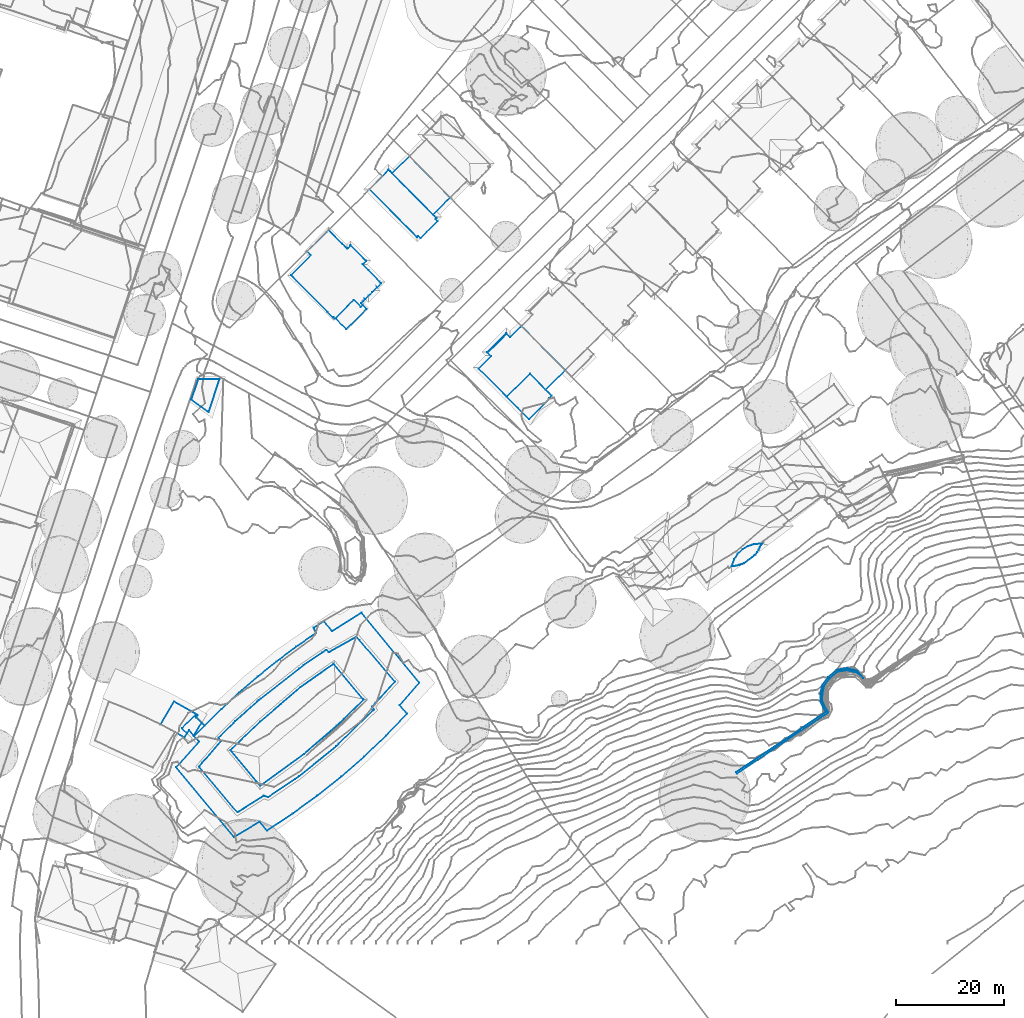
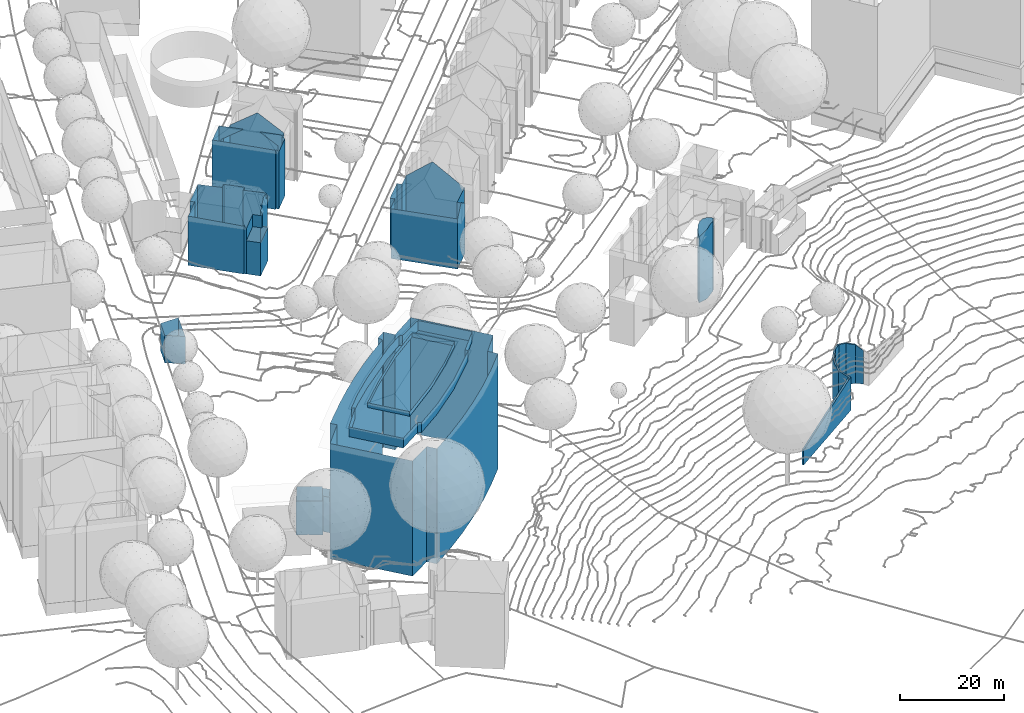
# Not in any storey, part 24 of 477: 7 walls.
"""IFC4 building model written with IfcOpenShell, lengths in metres."""

from ifc_helpers import new_model, si_unit, frame, origin_with_axes, place, context, subcontext, project, spatial, polygons, element, save


model = new_model("IFC4")

# Units and contexts
model_context = context("Model", 3, precision=1e-05, world=origin_with_axes())
body_context = subcontext(model_context, "Body", "Model", "MODEL_VIEW")
ifc_project = project(units=[si_unit("AREAUNIT", "SQUARE_METRE"), si_unit("LENGTHUNIT", "METRE")], contexts=[model_context])

# Sites, building
site_1_placement = place(None, origin_with_axes())
site_1 = spatial("IfcSite", under=ifc_project, at=site_1_placement, Name="Topoexport Site")
site_2_placement = place(site_1_placement, origin_with_axes())
site_2 = spatial("IfcSite", under=site_1, at=site_2_placement, Name="TPX_BUILDINGS")
building_1_placement = place(site_2_placement, frame((211.8297320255, 101.9383160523, 526.7541), z_axis=(0.0, 0.0, 1.0), x_axis=(1.0, 0.0, 0.0)))
building_1 = spatial("IfcBuilding", under=site_2, at=building_1_placement, Name="Building 18", CompositionType="ELEMENT")

# Wall
wall_1_placement = place(None, frame((211.8297320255, 101.9383160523, 526.7541), z_axis=(0.0, 0.0, 1.0), x_axis=(1.0, 0.0, 0.0)))
element("IfcWall", 1, at=wall_1_placement, inside=building_1, Name="Wall 5", context=body_context, shape_type="Tessellation", body=[
    polygons([(-34.2349999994, -56.6416000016, -17.0633), (-34.2729999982, -58.0879000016, -8.6262), (-34.2349999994, -56.6416000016, -7.9062), (-34.6169999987, -58.1572000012, -17.0633), (-34.5759999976, -56.5976999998, -17.0633), (-34.6169999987, -58.1572000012, -8.6262), (-34.0889999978, -59.3066999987, -17.0634), (-34.0889999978, -59.3066999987, -8.9141), (-34.2729999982, -58.0879000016, -17.0633), (-33.7829999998, -59.1513999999, -8.9141), (-33.6050000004, -60.182599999, -17.0634), (-33.6050000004, -60.182599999, -9.2021), (-33.7829999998, -59.1513999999, -17.0634), (-33.1519999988, -60.2930000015, -9.2021), (-50.118999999, -71.6132999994, -17.0633), (-50.3090000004, -71.3280999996, -13.5207), (-50.118999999, -71.6132999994, -13.5207), (-33.1519999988, -60.2930000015, -17.0634), (-50.3090000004, -71.3280999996, -17.0633), (-32.8939999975, -53.9004000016, -17.0633), (-33.9159999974, -55.2714999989, -7.1863), (-32.8939999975, -53.9004000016, -6.7543), (-34.2329999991, -55.125, -17.0633), (-33.1439999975, -53.6620999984, -17.0633), (-34.2329999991, -55.125, -7.1863), (-34.5759999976, -56.5976999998, -7.9062), (-33.9159999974, -55.2714999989, -17.0633), (-31.5610000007, -52.3574000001, -6.8983), (-33.1439999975, -53.6620999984, -6.7543), (-31.4149999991, -52.6816999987, -17.0633), (-31.4149999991, -52.6816999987, -6.8983), (-29.6919999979, -52.4120999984, -17.0633), (-29.6919999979, -52.4120999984, -7.3303), (-27.7089999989, -52.5527999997, -17.0633), (-26.6359999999, -53.8544999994, -9.2021), (-27.7089999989, -52.5527999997, -8.0502), (-26.6359999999, -53.8544999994, -17.0634), (-27.8649999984, -52.8671999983, -17.0633), (-27.8649999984, -52.8671999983, -8.0502), (-29.6769999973, -52.0634999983, -17.0633), (-29.6769999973, -52.0634999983, -7.3303), (-31.5610000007, -52.3574000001, -17.0633)], [[[3, 2, 1]], [[6, 5, 4]], [[8, 4, 7]], [[2, 10, 9]], [[12, 7, 11]], [[10, 14, 13]], [[17, 16, 15]], [[18, 14, 15]], [[17, 15, 14]], [[19, 16, 12]], [[12, 11, 19]], [[22, 21, 20]], [[25, 24, 23]], [[26, 23, 5]], [[21, 3, 27]], [[29, 28, 24]], [[31, 20, 30]], [[33, 30, 32]], [[36, 35, 34]], [[35, 38, 37]], [[39, 32, 38]], [[41, 36, 40]], [[28, 41, 42]], [[2, 9, 1]], [[26, 5, 6]], [[6, 4, 8]], [[10, 13, 9]], [[8, 7, 12]], [[14, 18, 13]], [[16, 19, 15]], [[21, 27, 20]], [[29, 24, 25]], [[25, 23, 26]], [[3, 1, 27]], [[28, 42, 24]], [[22, 20, 31]], [[31, 30, 33]], [[35, 37, 34]], [[39, 38, 35]], [[33, 32, 39]], [[36, 34, 40]], [[41, 40, 42]]]),
])

# Building
building_2_placement = place(site_2_placement, frame((160.7467320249, 68.8533160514, 524.6524), z_axis=(0.0, 0.0, 1.0), x_axis=(1.0, 0.0, 0.0)))
building_2 = spatial("IfcBuilding", under=site_2, at=building_2_placement, Name="Building 63", CompositionType="ELEMENT")

# Wall
wall_2_placement = place(None, frame((160.7467320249, 68.8533160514, 524.6524), z_axis=(0.0, 0.0, 1.0), x_axis=(1.0, 0.0, 0.0)))
element("IfcWall", 2, at=wall_2_placement, inside=building_2, Name="Wall 0", context=body_context, shape_type="Tessellation", body=[
    polygons([(5.4290000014, 4.2012000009, 0.0), (5.6660000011, 4.1621000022, 15.3665), (5.4290000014, 4.2012000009, 15.5055), (4.9690000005, 3.0342000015, 0.0), (5.2080000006, 3.4942000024, 15.8244), (5.2080000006, 3.4942000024, 0.0), (4.1750000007, 4.1114000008, 0.0), (4.1750000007, 4.1114000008, 16.0654), (4.2740000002, 2.0780999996, 12.3078), (4.382000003, 2.1905000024, 16.3644), (4.382000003, 2.1905000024, 0.0), (4.2740000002, 2.0780999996, 0.0), (4.694000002, 2.6006000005, 16.2144), (4.694000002, 2.6006000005, 0.0), (4.9700000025, 3.0362000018, 16.0694), (4.9760000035, 3.0488000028, 16.0654), (3.0090000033, 3.7588, 0.0), (3.0090000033, 3.7588, 16.4104), (1.9740000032, 3.1563000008, 0.0), (1.9740000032, 3.1563000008, 16.5274), (1.1090000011, 2.3280999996, 0.0), (1.1090000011, 2.3280999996, 16.4104), (2.2650000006, 0.572300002, 12.2778), (1.9539999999, 0.4356000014, 16.2704), (2.2650000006, 0.572300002, 16.3704), (2.2650000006, 0.572300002, 4.0926), (2.2640000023, 0.572300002, 0.0), (1.9539999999, 0.4356000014, 0.0), (0.4470000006, 1.3037, 0.0), (0.4470000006, 1.3037, 16.0654), (1.4880000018, 0.2734999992, 16.1294), (1.4880000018, 0.2734999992, 9.0111), (1.4880000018, 0.2734999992, 0.0), (0.5250000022, 0.067400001, 15.7045), (1.0109999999, 0.1504000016, 6.9723), (1.0109999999, 0.1504000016, 0.0), (0.5250000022, 0.067400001, 11.7198), (0.0150000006, 0.1231000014, 0.0), (0.0150000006, 0.1231000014, 15.5055), (0.0, 0.0, 15.4335), (0.0340000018, 0.0234999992, 0.0), (0.0, 0.0, 0.0), (5.6660000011, 4.1621000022, 0.0), (5.4050000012, 3.9717000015, 0.0), (5.4050000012, 3.9717000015, 15.5885), (5.5320000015, 4.0645000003, 15.5055), (2.3710000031, 0.6524000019, 16.4104), (3.3210000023, 1.3672000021, 16.5274), (4.2740000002, 2.0780999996, 16.4104), (3.3210000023, 1.3672000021, 0.0), (1.2660000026, 0.2168000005, 16.0654), (1.0109999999, 0.1504000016, 15.9364), (1.2660000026, 0.2168000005, 0.0), (0.0870000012, 0.0283000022, 15.5055), (0.0340000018, 0.0234999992, 15.4675), (0.5250000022, 0.067400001, 0.0)], [[[3, 2, 1]], [[6, 5, 4]], [[8, 3, 7]], [[11, 10, 9]], [[11, 9, 12]], [[10, 14, 13]], [[14, 10, 11]], [[4, 15, 13]], [[13, 14, 4]], [[15, 4, 16]], [[18, 8, 17]], [[20, 18, 19]], [[22, 19, 21]], [[25, 24, 23]], [[27, 26, 24]], [[24, 28, 27]], [[30, 21, 29]], [[24, 31, 28]], [[31, 32, 28]], [[32, 33, 28]], [[36, 35, 34]], [[37, 36, 34]], [[39, 29, 38]], [[42, 41, 40]], [[42, 40, 39]], [[38, 42, 39]], [[44, 43, 2]], [[2, 46, 45]], [[2, 45, 44]], [[9, 48, 47]], [[23, 9, 47]], [[49, 48, 9]], [[26, 12, 9]], [[25, 23, 47]], [[12, 26, 50]], [[26, 27, 50]], [[26, 9, 23]], [[32, 31, 51]], [[32, 51, 52]], [[35, 32, 52]], [[32, 35, 33]], [[53, 33, 35]], [[36, 53, 35]], [[37, 34, 54]], [[37, 54, 55]], [[37, 55, 56]], [[55, 41, 56]], [[2, 43, 1]], [[5, 16, 4]], [[5, 6, 45]], [[44, 45, 6]], [[3, 1, 7]], [[49, 9, 10]], [[8, 7, 17]], [[18, 17, 19]], [[20, 19, 22]], [[26, 23, 24]], [[22, 21, 30]], [[52, 34, 35]], [[56, 36, 37]], [[30, 29, 39]], [[41, 55, 40]]]),
])

# Building
building_3_placement = place(site_2_placement, frame((60.2177320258, 99.807416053, 527.0553), z_axis=(0.0, 0.0, 1.0), x_axis=(1.0, 0.0, 0.0)))
building_3 = spatial("IfcBuilding", under=site_2, at=building_3_placement, Name="Building 132", CompositionType="ELEMENT")

# Wall
wall_3_placement = place(None, frame((60.2177320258, 99.807416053, 527.0553), z_axis=(0.0, 0.0, 1.0), x_axis=(1.0, 0.0, 0.0)))
element("IfcWall", 3, at=wall_3_placement, inside=building_3, Name="Wall 0", context=body_context, shape_type="Tessellation", body=[
    polygons([(1.3100000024, 3.8682000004, 0.0), (5.2420000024, 3.8145000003, 6.4344), (1.3100000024, 3.8682000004, 6.4344), (0.0, 0.0, 0.0), (0.0, 0.0, 6.4344), (3.2190000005, -2.3368999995, 0.0), (3.2190000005, -2.3368999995, 6.4343), (5.2420000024, 3.8145000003, 0.0)], [[[3, 2, 1]], [[5, 3, 4]], [[7, 5, 6]], [[2, 7, 8]], [[2, 8, 1]], [[3, 1, 4]], [[5, 4, 6]], [[7, 6, 8]]]),
])

# Building
building_4_placement = place(site_2_placement, frame((54.4957320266, 39.4383160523, 525.2974), z_axis=(0.0, 0.0, 1.0), x_axis=(1.0, 0.0, 0.0)))
building_4 = spatial("IfcBuilding", under=site_2, at=building_4_placement, Name="Building 133", CompositionType="ELEMENT")

# Wall
wall_4_placement = place(None, frame((54.4957320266, 39.4383160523, 525.2974), z_axis=(0.0, 0.0, 1.0), x_axis=(1.0, 0.0, 0.0)))
element("IfcWall", 4, at=wall_4_placement, inside=building_4, Name="Wall 0", context=body_context, shape_type="Tessellation", body=[
    polygons([(31.9250000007, 17.3418000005, -1.7479), (37.3819999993, 20.8027000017, 25.2785), (31.9250000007, 17.3418000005, 25.2785), (30.4200000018, 19.2245999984, -1.7479), (30.4200000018, 19.2245999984, 25.2785), (28.4890000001, 17.9638999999, -1.7479), (28.4890000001, 17.9638999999, 25.2785), (28.9499999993, 17.0243999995, -1.7479), (28.9499999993, 17.0243999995, 25.2785), (25.2219999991, 14.4345999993, -1.7479), (25.2219999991, 14.4345999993, 25.2785), (21.5870000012, 11.7157999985, -1.7479), (21.5870000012, 11.7157999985, 25.2785), (18.0500000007, 8.870099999, -1.7479), (18.0500000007, 8.870099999, 25.2785), (14.6530000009, 5.9393999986, -1.7479), (14.6530000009, 5.9393999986, 25.2785), (11.3590000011, 2.8935000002, -1.7479), (11.3590000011, 2.8935000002, 25.2785), (13.7049999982, -20.9189999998, -1.7479), (2.9010000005, -7.9785000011, 25.2785), (13.7049999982, -20.9189999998, 25.2785), (18.4660000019, -18.0859999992, -1.7479), (18.4660000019, -18.0859999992, 25.2785), (19.824000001, -19.7129000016, -1.7479), (19.824000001, -19.7129000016, 25.2785), (24.5500000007, -16.5898999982, -1.7479), (24.5500000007, -16.5898999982, 25.2785), (29.1330000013, -13.2608000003, -1.7479), (29.1330000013, -13.2608000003, 25.2785), (33.5639999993, -9.7324000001, -1.7479), (33.5639999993, -9.7324000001, 25.2785), (37.8350000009, -6.0117000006, -1.7479), (37.8350000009, -6.0117000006, 25.2785), (41.936999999, -2.1044999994, -1.7479), (41.936999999, -2.1044999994, 25.2785), (45.8619999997, 1.9803999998, -1.7479), (45.8619999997, 1.9805000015, 25.2785), (44.5139999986, 3.6162, -1.7479), (44.5139999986, 3.6162, 25.2785), (48.1380000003, 7.754900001, -1.7479), (48.1380000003, 7.754900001, 25.2785), (37.3819999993, 20.8027000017, -1.7479), (19.1539999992, -13.2842000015, 27.6573), (19.1799999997, -13.2685999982, 27.6643), (19.1799999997, -13.2685999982, 25.2785), (23.8339999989, 5.0507999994, 28.2982), (18.5309999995, 0.5078000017, 28.7112), (18.5300000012, 0.5067999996, 28.2982), (26.0760000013, 6.9717000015, 28.2562), (26.0760000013, 6.9717000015, 29.1862), (24.9549999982, 6.0117000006, 28.2772), (32.7760000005, -0.2490000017, 29.1751), (32.7760000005, -0.2490000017, 28.1942), (30.6220000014, -2.0967000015, 28.2012), (29.9050000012, -2.7129000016, 28.2032), (29.0240000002, -3.4677999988, 28.1972), (26.6779999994, -5.4814999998, 28.1662), (6.5139999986, 1.754900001, -0.386), (6.7509999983, 1.5088, 0.0), (6.5139999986, 1.754900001, 0.0), (3.993999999, -0.6651000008, -0.386), (3.993999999, -0.6651000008, 0.0), (4.9389999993, -1.6484999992, -0.386), (4.9389999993, -1.6484999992, 0.0), (2.5009999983, 4.2705000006, 0.0), (6.8920000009, 1.7558000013, 7.9202), (2.5009999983, 4.2705000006, 7.9202), (0.0, 0.0, 0.0), (0.0, 0.0, 7.9202), (2.0130000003, -1.0263999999, 0.0), (2.0130000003, -1.0263999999, 7.9202), (3.1609999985, -1.7362999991, 0.0), (3.1609999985, -1.7362999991, 7.9202), (4.4609999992, -2.4765999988, 0.0), (4.4609999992, -2.4765999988, 7.9202), (7.6240000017, 0.2754000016, 6.8753), (6.1860000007, -2.0498000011, 7.9202), (7.6240000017, 0.2754000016, 7.9202), (2.9010000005, -7.9785000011, -1.7479), (7.2030000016, -3.2236000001, 25.2785), (7.2030000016, -3.2236000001, -1.7479), (6.2659999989, -2.1416000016, -1.7479), (8.1710000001, -0.2637000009, -0.386), (6.2659999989, -2.1416000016, -0.386), (8.1710000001, -0.2637000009, 6.8753), (6.2659999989, -2.1416000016, 25.2785), (6.2659999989, -2.1416000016, 6.8753), (8.1710000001, -0.2637000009, 25.2785), (8.1710000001, -0.2637000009, -1.7479), (39.3729999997, 3.3271000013, 25.2785), (39.4919999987, 3.129900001, 27.5943), (39.3729999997, 3.3271000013, 27.6503), (39.4919999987, 3.129900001, 25.2785), (39.7080000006, 2.7685000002, 25.2785), (39.7080000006, 2.7685000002, 27.5943), (19.9820000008, -13.5537, 25.2785), (19.8159999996, -13.4941999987, 27.6643), (19.9820000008, -13.5537, 27.6333), (25.7670000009, -9.6504000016, 25.2785), (25.0489999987, -10.1358000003, 25.2785), (25.7670000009, -9.6504000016, 27.6263), (25.0489999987, -10.1358000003, 27.6333), (14.9730000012, -15.933600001, 27.6573), (14.3150000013, -16.3506000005, 25.2785), (14.3150000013, -16.3506000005, 27.5783), (7.3269999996, -7.9990000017, 27.5783), (7.3269999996, -7.9990000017, 25.2785), (7.1739999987, -7.816399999, 25.2785), (7.1739999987, -7.816399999, 27.5773), (11.2589999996, -3.0898999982, 25.2785), (10.9299999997, -2.6376999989, 27.5273), (11.2589999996, -3.0898999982, 27.6673), (10.8139999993, -2.4776000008, 27.5273), (10.8139999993, -2.4776000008, 25.2785), (11.6710000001, -1.6182000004, 27.5273), (13.568, 0.2831999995, 25.2785), (13.9100000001, 0.625, 27.6373), (13.568, 0.2831999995, 27.6373), (13.9100000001, 0.625, 25.2785), (7.7609999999, -7.1376999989, 25.2785), (7.7609999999, -7.1376999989, 27.6633), (11.1409999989, -3.2256000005, 27.6633), (39.4809999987, 2.5478000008, 25.2785), (39.4809999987, 2.5478000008, 27.6353), (33.1700000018, -3.5742000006, 25.2785), (32.6710000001, -4.0595999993, 25.2785), (32.6700000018, -4.0606000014, 27.6283), (33.1700000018, -3.5742000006, 27.6353), (32.5289999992, -4.1748000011, 27.6303), (26.5179999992, -9.0430000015, 27.6303), (18.2829999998, 4.4891999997, 25.2785), (18.631000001, 4.7626999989, 27.6393), (18.2829999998, 4.4891999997, 27.6383), (18.631000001, 4.7626999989, 25.2785), (25.7490000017, 10.3583999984, 27.6393), (25.7490000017, 10.3583999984, 25.2785), (26.3979999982, 10.8691000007, 27.6343), (26.5780000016, 11.0106999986, 25.2785), (26.5789999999, 11.0117000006, 27.6353), (14.245000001, 0.9219000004, 27.6433), (17.9789999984, 4.2206999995, 25.2785), (17.9789999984, 4.2206999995, 27.6433), (37.0020000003, 15.7089999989, 25.2785), (36.4640000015, 16.3398000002, 27.5823), (36.4640000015, 16.3398000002, 25.2785), (37.0020000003, 15.7089999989, 27.5803), (43.6039999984, 7.9677999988, 25.2785), (43.6039999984, 7.9677999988, 27.5803), (31.307, 13.4111000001, 25.2785), (31.5080000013, 13.5254000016, 27.6783), (31.307, 13.4111000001, 27.6813), (35.6939999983, 15.9023000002, 25.2785), (35.6939999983, 15.9023000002, 27.6783), (30.8949999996, 13.7793000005, 27.5273), (30.8099999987, 13.8555000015, 25.2785), (30.8099999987, 13.8555000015, 27.5273), (27.1959999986, 11.4266999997, 27.6483), (30.0579999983, 13.3506000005, 27.5273), (30.0579999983, 13.3506000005, 25.2785), (27.7419999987, 8.1387000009, 29.1732), (27.0590000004, 7.6592000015, 28.2632), (32.2089999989, 11.2685000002, 29.2871), (29.0769999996, 9.0731999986, 28.2982), (32.2089999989, 11.2685000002, 28.2982), (13.0229999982, -4.7558999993, 29.2891), (13.6799999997, -4.1279000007, 28.2982), (13.0229999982, -4.7558999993, 28.2103), (18.061999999, 0.0595999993, 29.1732), (18.5309999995, 0.5078000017, 29.1762), (34.0760000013, 1.0155999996, 28.2122), (34.8909999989, 1.807599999, 28.2132), (37.7690000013, 4.6064000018, 29.2911), (33.3900000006, 0.3486000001, 29.1731), (37.7690000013, 4.6064000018, 28.1612), (34.9970000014, 1.9111000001, 28.1932), (32.9549999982, 10.375, 28.2982), (32.3330000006, 11.120099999, 29.3351), (37.4479999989, 4.9912, 28.2852), (37.6570000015, 4.7382999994, 28.2042), (37.6579999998, 4.7391999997, 29.3361), (18.3590000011, -11.1484999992, 28.2362), (18.4660000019, -11.2773999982, 29.3351), (18.5729999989, -11.4052999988, 29.2931), (18.5729999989, -11.4052999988, 28.1502), (17.743999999, -10.4120999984, 28.2362), (13.1420000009, -4.8975000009, 29.3351), (24.4739999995, -7.0927999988, 29.1731), (26.6779999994, -5.4814999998, 29.1801), (23.9930000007, -7.4433999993, 28.1842), (19.7320000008, -10.558600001, 28.1922), (18.9180000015, -11.1532999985, 28.1842), (18.8170000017, -11.2276000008, 28.1552), (6.8920000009, 1.7558000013, 0.0), (6.6140000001, 1.2694999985, 7.9202), (6.7509999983, 1.5088, -0.386), (6.6140000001, 1.2694999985, -0.386), (5.2989999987, -1.0254000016, -0.386), (5.2989999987, -1.0254000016, 7.9202), (6.1860000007, -2.0498000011, 6.8753), (40.0489999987, 4.0683000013, 27.6524), (43.1499999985, 7.4697000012, 27.6523), (40.0780000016, 4.1006000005, 25.2785), (39.563000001, 3.5361000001, 27.6523), (39.563000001, 3.5361000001, 25.2785)], [[[3, 2, 1]], [[5, 3, 4]], [[7, 5, 6]], [[9, 7, 8]], [[11, 9, 10]], [[13, 11, 12]], [[15, 13, 14]], [[17, 15, 16]], [[19, 17, 18]], [[22, 21, 20]], [[24, 22, 23]], [[26, 24, 25]], [[28, 26, 27]], [[30, 28, 29]], [[32, 30, 31]], [[34, 32, 33]], [[36, 34, 35]], [[38, 36, 37]], [[40, 38, 39]], [[42, 40, 41]], [[2, 42, 43]], [[46, 45, 44]], [[49, 48, 47]], [[51, 50, 48]], [[47, 48, 52]], [[55, 54, 53]], [[53, 56, 55]], [[53, 58, 57]], [[53, 57, 56]], [[61, 60, 59]], [[63, 61, 62]], [[65, 63, 64]], [[68, 67, 66]], [[70, 66, 69]], [[72, 69, 71]], [[74, 72, 73]], [[76, 74, 75]], [[79, 78, 77]], [[21, 81, 80]], [[81, 82, 80]], [[85, 84, 83]], [[88, 87, 86]], [[89, 19, 86]], [[84, 18, 90]], [[84, 86, 18]], [[18, 86, 19]], [[93, 92, 91]], [[91, 92, 94]], [[94, 96, 95]], [[96, 94, 92]], [[99, 98, 97]], [[98, 45, 97]], [[45, 46, 97]], [[102, 101, 100]], [[103, 99, 101]], [[97, 101, 99]], [[103, 101, 102]], [[46, 44, 104]], [[104, 106, 105]], [[105, 46, 104]], [[106, 107, 105]], [[105, 107, 108]], [[108, 110, 109]], [[110, 108, 107]], [[113, 112, 111]], [[111, 112, 114]], [[114, 115, 111]], [[116, 115, 114]], [[116, 117, 115]], [[119, 118, 117]], [[120, 117, 118]], [[119, 117, 116]], [[110, 122, 121]], [[121, 109, 110]], [[122, 123, 121]], [[123, 113, 111]], [[123, 111, 121]], [[96, 125, 124]], [[124, 95, 96]], [[125, 126, 124]], [[129, 128, 127]], [[127, 126, 129]], [[129, 126, 125]], [[128, 130, 127]], [[130, 100, 127]], [[131, 102, 100]], [[131, 100, 130]], [[134, 133, 132]], [[133, 135, 132]], [[137, 135, 136]], [[135, 133, 136]], [[139, 137, 138]], [[139, 138, 140]], [[138, 137, 136]], [[118, 141, 120]], [[141, 142, 120]], [[143, 134, 132]], [[132, 142, 143]], [[143, 142, 141]], [[146, 145, 144]], [[144, 145, 147]], [[147, 148, 144]], [[148, 147, 149]], [[152, 151, 150]], [[151, 153, 150]], [[154, 145, 153]], [[146, 153, 145]], [[154, 153, 151]], [[150, 156, 155]], [[155, 156, 157]], [[150, 155, 152]], [[140, 158, 139]], [[158, 159, 139]], [[156, 160, 157]], [[159, 160, 139]], [[50, 51, 161]], [[162, 50, 161]], [[164, 161, 163]], [[164, 162, 161]], [[165, 164, 163]], [[167, 166, 48]], [[167, 168, 166]], [[166, 169, 48]], [[49, 167, 48]], [[48, 169, 170]], [[172, 53, 171]], [[174, 172, 173]], [[173, 176, 175]], [[176, 173, 172]], [[171, 53, 54]], [[53, 172, 174]], [[163, 178, 177]], [[177, 165, 163]], [[178, 179, 177]], [[181, 173, 180]], [[180, 179, 181]], [[175, 180, 173]], [[181, 179, 178]], [[184, 183, 182]], [[185, 184, 182]], [[183, 186, 182]], [[186, 187, 168]], [[187, 186, 183]], [[166, 168, 187]], [[58, 189, 188]], [[188, 184, 190]], [[190, 184, 191]], [[188, 190, 58]], [[192, 191, 184]], [[185, 193, 192]], [[192, 184, 185]], [[67, 60, 194]], [[60, 67, 195]], [[60, 197, 196]], [[197, 60, 195]], [[199, 65, 198]], [[65, 199, 76]], [[198, 65, 64]], [[75, 65, 76]], [[195, 77, 197]], [[77, 195, 79]], [[197, 77, 84]], [[86, 84, 77]], [[81, 87, 88]], [[88, 82, 81]], [[85, 82, 88]], [[78, 199, 200]], [[200, 199, 198]], [[200, 85, 88]], [[198, 85, 200]], [[202, 201, 149]], [[149, 203, 148]], [[149, 201, 203]], [[204, 93, 91]], [[205, 203, 201]], [[201, 91, 205]], [[201, 204, 91]], [[2, 43, 1]], [[3, 1, 4]], [[5, 4, 6]], [[7, 6, 8]], [[9, 8, 10]], [[11, 10, 12]], [[13, 12, 14]], [[15, 14, 16]], [[17, 16, 18]], [[21, 80, 20]], [[22, 20, 23]], [[24, 23, 25]], [[26, 25, 27]], [[28, 27, 29]], [[30, 29, 31]], [[32, 31, 33]], [[34, 33, 35]], [[36, 35, 37]], [[38, 37, 39]], [[40, 39, 41]], [[42, 41, 43]], [[51, 48, 170]], [[52, 48, 50]], [[189, 58, 53]], [[60, 196, 59]], [[61, 59, 62]], [[63, 62, 64]], [[67, 194, 66]], [[68, 66, 70]], [[70, 69, 72]], [[72, 71, 73]], [[74, 73, 75]], [[78, 200, 77]], [[84, 90, 83]], [[87, 89, 86]], [[160, 159, 157]], [[85, 83, 82]]]),
])

# Building
building_5_placement = place(site_2_placement, frame((78.7667320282, 123.0301160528, 529.3211), z_axis=(0.0, 0.0, 1.0), x_axis=(1.0, 0.0, 0.0)))
building_5 = spatial("IfcBuilding", under=site_2, at=building_5_placement, Name="Building 135", CompositionType="ELEMENT")

# Wall
wall_5_placement = place(None, frame((78.7667320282, 123.0301160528, 529.3211), z_axis=(0.0, 0.0, 1.0), x_axis=(1.0, 0.0, 0.0)))
element("IfcWall", 5, at=wall_5_placement, inside=building_5, Name="Wall 0", context=body_context, shape_type="Tessellation", body=[
    polygons([(14.1019999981, -6.3213, -0.0001), (10.2869999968, -10.1006000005, 7.7942), (14.1019999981, -6.3213, 7.7942), (10.2869999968, -10.1006000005, -0.0001), (8.2649999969, -8.126000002, 7.7942), (16.0089999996, -2.3194000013, 11.3049), (16.0089999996, -2.3194000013, 12.0338), (15.7159999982, -2.0342000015, 12.0338), (13.7709999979, -4.5351999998, 11.4069), (13.5189999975, -4.2890999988, 12.0338), (13.7709999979, -4.5351999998, 12.0338), (3.7009999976, 3.6631000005, 0.0), (3.7009999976, 3.6631000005, 11.4989), (0.0, 0.0, 0.0), (0.0, 0.0, 7.0373), (0.0, 0.0, 11.3499), (8.2419999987, -8.1493999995, -0.0001), (7.930999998, -7.8350000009, 11.4119), (8.2419999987, -8.1493999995, 10.6389), (7.930999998, -7.8350000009, -0.0001), (7.8399999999, -7.9257999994, 11.2049), (7.8399999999, -7.9257999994, -0.0001), (11.6569999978, -4.6464999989, 10.6389), (11.6569999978, -4.6464999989, 7.7942), (8.2649999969, -8.126000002, -0.0001), (13.3609999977, -5.572300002, 7.7942), (12.993999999, -5.9492000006, 10.6389), (13.3609999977, -5.572300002, 10.6389), (12.993999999, -5.9492000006, 7.7942), (6.8609999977, -6.9365000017, -0.0001), (6.8609999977, -6.9365000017, 11.2509), (0.0819999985, -0.0830000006, 11.5359), (11.1199999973, 5.5058000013, 11.7208), (14.0039999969, 2.5907999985, 11.6778), (13.9399999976, 2.6543000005, 11.8498), (14.0039999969, 2.5907999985, 5.8224), (13.9399999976, 2.6543000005, 0.0), (14.0039999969, 2.5907999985, 0.0), (11.1199999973, 5.5058000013, 0.0), (10.6209999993, 5.0106999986, 0.0), (10.6209999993, 5.0106999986, 11.9048), (10.4769999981, 4.8680999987, 11.8988), (10.4769999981, 4.8680999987, 0.0), (11.0399999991, 5.4266999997, 11.9258), (6.5949999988, 7.9648000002, 0.0), (2.981999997, 4.3896000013, 11.2519), (2.981999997, 4.3896000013, 0.0), (6.5949999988, 7.9648000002, 11.3959), (7.0089999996, 8.375, 0.0), (7.0089999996, 8.375, 11.4129), (9.5, 5.8563999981, 11.5559), (7.0219999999, 8.3612999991, 0.0), (9.5, 5.8563999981, 0.0), (10.367999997, 4.9785000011, 11.5978), (7.0219999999, 8.3612999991, 11.4419), (3.6059999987, 3.7588, 11.2829), (3.0069999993, 4.3641999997, 11.3079), (14.4459999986, 0.8535000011, 11.7918), (13.3699999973, 1.9628999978, 11.7108), (13.3699999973, 1.9628999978, 0.0), (16.5169999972, -1.2813000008, 11.9448), (16.5169999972, -1.2813000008, -0.0001), (16.7819999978, -1.5547000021, 11.2699), (16.7819999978, -1.5547000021, -0.0001), (14.4459999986, 0.8535000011, -0.0001), (13.0449999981, -5.2529000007, 11.4368), (13.0449999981, -5.2529000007, -0.0001), (13.3609999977, -5.572300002, -0.0001), (16.0089999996, -2.3194000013, -0.0001), (16.7109999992, -1.625, 11.2739), (15.1199999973, -3.1992000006, -0.0001), (15.4229999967, -2.9004000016, 13.0077), (15.1199999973, -3.1992000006, 13.0157), (16.7109999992, -1.625, -0.0001), (15.4229999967, -2.9004000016, -0.0001), (14.436999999, -3.875, -0.0001), (14.436999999, -3.875, 13.0357), (13.2909999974, -5.009800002, 11.4288), (13.5549999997, -4.7481000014, 11.4159), (13.2909999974, -5.009800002, -0.0001), (13.7709999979, -4.5351999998, -0.0001), (13.5549999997, -4.7481000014, -0.0001)], [[[3, 2, 1]], [[2, 5, 4]], [[8, 7, 6]], [[11, 10, 9]], [[14, 13, 12]], [[16, 13, 15]], [[14, 15, 13]], [[19, 18, 17]], [[18, 20, 17]], [[22, 20, 21]], [[24, 23, 5]], [[5, 17, 25]], [[17, 5, 19]], [[28, 27, 26]], [[27, 23, 29]], [[31, 30, 22]], [[21, 31, 22]], [[15, 31, 32]], [[15, 32, 16]], [[14, 30, 15]], [[15, 30, 31]], [[35, 34, 33]], [[33, 34, 36]], [[36, 38, 37]], [[37, 39, 36]], [[36, 39, 33]], [[42, 41, 40]], [[40, 43, 42]], [[41, 39, 40]], [[33, 39, 41]], [[33, 41, 44]], [[47, 46, 45]], [[45, 46, 48]], [[48, 50, 49]], [[48, 49, 45]], [[53, 52, 51]], [[54, 43, 53]], [[51, 52, 49]], [[50, 55, 51]], [[54, 42, 43]], [[54, 53, 51]], [[51, 49, 50]], [[57, 46, 56]], [[13, 56, 12]], [[12, 56, 46]], [[47, 12, 46]], [[60, 59, 58]], [[62, 58, 61]], [[64, 61, 63]], [[62, 65, 58]], [[64, 62, 61]], [[58, 65, 60]], [[28, 26, 66]], [[66, 26, 67]], [[1, 68, 26]], [[26, 68, 67]], [[3, 1, 26]], [[70, 6, 69]], [[6, 72, 71]], [[72, 6, 7]], [[71, 72, 73]], [[64, 63, 74]], [[63, 70, 74]], [[69, 74, 70]], [[6, 75, 69]], [[6, 71, 75]], [[73, 76, 71]], [[9, 77, 11]], [[80, 79, 78]], [[67, 78, 66]], [[76, 9, 81]], [[9, 76, 77]], [[81, 9, 82]], [[82, 9, 79]], [[82, 79, 80]], [[78, 67, 80]], [[77, 76, 73]], [[2, 4, 1]], [[5, 25, 4]], [[21, 20, 18]], [[36, 34, 60]], [[60, 38, 36]], [[59, 60, 34]], [[23, 19, 5]], [[27, 29, 26]], [[23, 24, 29]]]),
])

# Building
building_6_placement = place(site_2_placement, frame((93.366732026, 139.0154160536, 529.92), z_axis=(0.0, 0.0, 1.0), x_axis=(1.0, 0.0, 0.0)))
building_6 = spatial("IfcBuilding", under=site_2, at=building_6_placement, Name="Building 141", CompositionType="ELEMENT")

# Wall
wall_6_placement = place(None, frame((93.366732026, 139.0154160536, 529.92), z_axis=(0.0, 0.0, 1.0), x_axis=(1.0, 0.0, 0.0)))
element("IfcWall", 6, at=wall_6_placement, inside=building_6, Name="Wall 0", context=body_context, shape_type="Tessellation", body=[
    polygons([(9.506000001, -9.1621000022, 0.0), (9.0810000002, -8.7324000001, 0.0), (9.506000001, -9.1621000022, 13.4417), (12.6420000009, -5.9756000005, 0.0), (12.6420000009, -5.9756000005, 13.4417), (8.8610000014, -8.951100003, 3.4527), (9.0810000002, -8.7324000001, 13.8067), (8.8610000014, -8.951100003, 0.0), (7.4539999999, 6.1162, 8.3852), (4.25, 2.9423999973, 0.104), (7.4539999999, 6.1162, 4.2446), (7.4539999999, 6.1162, 0.104), (12.2569999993, -5.5868999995, 0.0), (12.4629999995, -5.3828000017, 6.8843), (12.4629999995, -5.3828000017, 0.104), (12.4629999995, -5.3828000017, 0.0), (12.2569999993, -5.5868999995, 13.7727), (3.8320000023, 3.3310999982, 0.104), (3.8489999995, 3.3486999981, 0.104), (3.8320000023, 3.3310999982, 10.698), (3.6000000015, 3.5654999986, 13.8767), (3.5109999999, 3.4775999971, 13.9557), (0.0, 0.0, 13.9177), (3.6000000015, 3.5654999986, 0.0), (0.0, 0.0, 0.0), (3.5109999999, 3.4775999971, 0.0), (8.8610000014, -8.951100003, 10.357), (8.800999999, -8.8905999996, 13.8607), (8.8610000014, -8.951100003, 13.8097), (0.0580000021, -0.0576000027, 0.0), (0.0580000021, -0.0576000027, 13.9677), (12.2919999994, -4.2861000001, 11.3269), (15.0190000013, -1.5849000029, 11.2879), (15.0190000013, -1.5849000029, 0.104), (11.8300000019, -4.7441000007, 0.104), (11.8300000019, -4.7441000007, 11.3319), (11.307, 2.1943999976, 0.104), (11.307, 2.1943999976, 15.0576), (7.4539999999, 6.1162, 11.1449), (7.0130000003, 0.1191999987, 13.9157), (12.2200000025, -5.1377000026, 0.0), (12.4629999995, -5.3828000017, 13.7707), (11.8300000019, -4.7441000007, 13.9707), (9.2470000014, -2.1367000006, 13.9417), (12.2250000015, -5.1416000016, 13.9757), (4.25, 2.9423999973, 11.1039), (3.8489999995, 3.3486999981, 10.698)], [[[3, 2, 1]], [[5, 3, 4]], [[2, 7, 6]], [[6, 8, 2]], [[11, 10, 9]], [[12, 10, 11]], [[15, 14, 13]], [[15, 13, 16]], [[17, 13, 14]], [[20, 19, 18]], [[23, 22, 21]], [[23, 21, 24]], [[23, 26, 25]], [[26, 23, 24]], [[29, 28, 27]], [[6, 27, 30]], [[31, 27, 28]], [[30, 31, 23]], [[30, 23, 25]], [[8, 6, 30]], [[27, 31, 30]], [[34, 33, 32]], [[32, 36, 35]], [[32, 35, 34]], [[37, 12, 11]], [[11, 33, 37]], [[39, 38, 9]], [[33, 34, 37]], [[33, 9, 38]], [[33, 11, 9]], [[21, 20, 24]], [[20, 21, 40]], [[24, 18, 41]], [[18, 24, 20]], [[35, 41, 18]], [[36, 43, 42]], [[43, 36, 44]], [[45, 42, 43]], [[41, 15, 16]], [[41, 35, 15]], [[35, 14, 15]], [[36, 42, 14]], [[35, 36, 14]], [[7, 2, 3]], [[3, 1, 4]], [[17, 5, 13]], [[13, 5, 4]], [[7, 27, 6]], [[29, 27, 7]], [[47, 46, 10]], [[47, 10, 19]], [[39, 10, 46]], [[10, 39, 9]], [[17, 14, 42]], [[47, 19, 20]]]),
])

# Building
building_7_placement = place(site_2_placement, frame((113.678732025, 105.6463160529, 529.229), z_axis=(0.0, 0.0, 1.0), x_axis=(1.0, 0.0, 0.0)))
building_7 = spatial("IfcBuilding", under=site_2, at=building_7_placement, Name="Building 160", CompositionType="ELEMENT")

# Wall
wall_7_placement = place(None, frame((113.678732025, 105.6463160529, 529.229), z_axis=(0.0, 0.0, 1.0), x_axis=(1.0, 0.0, 0.0)))
element("IfcWall", 7, at=wall_7_placement, inside=building_7, Name="Wall 0", context=body_context, shape_type="Tessellation", body=[
    polygons([(16.1090000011, -0.313500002, 0.0), (12.4560000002, -3.9199000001, 11.1639), (16.1090000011, -0.313500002, 11.1639), (7.9539999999, 7.9013999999, 5.8835), (7.9539999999, 7.9013999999, 8.8922), (5.8420000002, 5.8037, 0.0), (5.8420000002, 5.8037, 7.2403), (7.9539999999, 7.9013999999, 11.8609), (5.8420000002, 5.8037, 11.8679), (7.9539999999, 7.9013999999, 0.0), (1.6720000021, 2.9160000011, 0.0), (5.2250000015, 6.4248000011, 0.0), (1.6720000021, 2.9160000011, 0.265), (13.064000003, -5.5507999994, -0.047), (13.1690000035, -5.6563000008, -0.047), (13.064000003, -5.5507999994, 11.7049), (13.5700000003, -5.0478999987, -0.047), (12.4560000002, -3.9199000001, 0.0), (9.5590000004, -0.9844000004, 0.0), (9.5590000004, -0.9844000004, -0.047), (13.5700000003, -5.0478999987, 11.1639), (5.2250000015, -5.2637000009, -0.047), (5.2260000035, -5.2626999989, 0.0), (1.7100000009, 3.120099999, 11.8879), (5.1290000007, 6.5214999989, 11.8259), (5.0930000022, 6.4853000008, 11.8709), (1.5890000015, 2.998999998, 11.7429), (5.1290000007, 6.5214999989, 0.265), (5.0930000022, 6.4853000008, 0.265), (1.5890000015, 2.998999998, 0.265), (1.7100000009, 3.120099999, 0.265), (11.6530000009, 4.1748000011, 16.0845), (11.6530000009, 4.1748000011, 0.0), (0.0, 0.0, 11.6839), (0.0, 0.0, 0.0), (2.2990000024, 2.2841999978, 0.0), (2.2990000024, 2.2841999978, 11.8799), (0.1780000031, 0.177699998, 11.8879), (5.2250000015, 6.4248000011, 0.265), (5.8020000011, 5.8436999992, 11.8229), (2.1810000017, 2.4032999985, 11.7449), (13.1690000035, -5.6563000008, 11.7049), (9.3660000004, -9.4345999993, 11.7119), (11.200000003, -7.6123000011, 13.8107), (11.200000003, -7.6123000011, -0.047), (9.3660000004, -9.4345999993, -0.047), (5.3280000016, -5.3672000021, -0.047), (7.6390000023, -7.6933999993, 11.7079), (5.3289999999, -5.3662, 11.7009)], [[[3, 2, 1]], [[6, 5, 4]], [[9, 8, 7]], [[5, 7, 8]], [[4, 10, 6]], [[13, 12, 11]], [[16, 15, 14]], [[18, 2, 17]], [[20, 19, 18]], [[18, 17, 20]], [[21, 17, 2]], [[23, 20, 22]], [[26, 25, 24]], [[27, 24, 25]], [[25, 28, 27]], [[28, 29, 27]], [[31, 30, 27]], [[29, 31, 27]], [[8, 32, 5]], [[3, 4, 5]], [[5, 32, 3]], [[3, 1, 33]], [[4, 33, 10]], [[33, 4, 3]], [[36, 35, 34]], [[34, 38, 37]], [[34, 37, 36]], [[28, 7, 39]], [[12, 39, 6]], [[6, 39, 7]], [[7, 25, 40]], [[7, 40, 9]], [[25, 7, 28]], [[41, 27, 30]], [[37, 41, 13]], [[30, 13, 41]], [[11, 36, 13]], [[13, 36, 37]], [[43, 15, 42]], [[42, 44, 43]], [[43, 46, 45]], [[45, 15, 43]], [[46, 48, 47]], [[46, 43, 48]], [[48, 49, 23]], [[34, 35, 23]], [[47, 23, 22]], [[47, 48, 23]], [[23, 49, 34]], [[2, 18, 1]], [[5, 6, 7]], [[39, 12, 13]], [[16, 14, 21]], [[17, 21, 14]], [[15, 16, 42]], [[19, 20, 23]]]),
])

save(model, "model.ifc")
